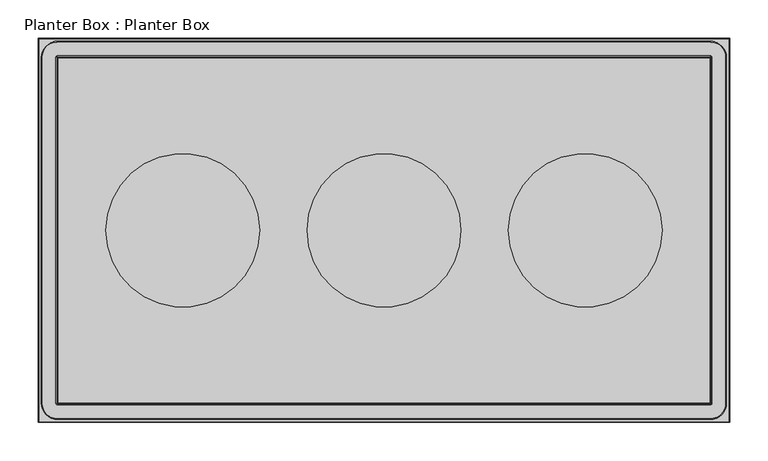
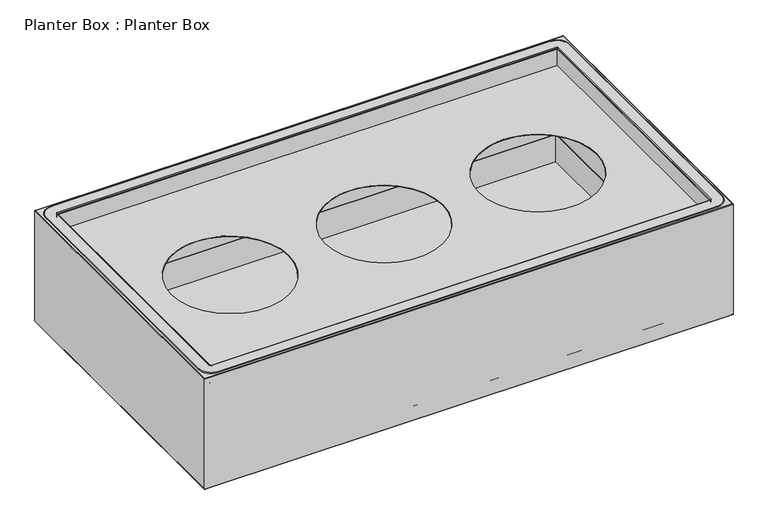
"""IFC4 building model written with IfcOpenShell, lengths in millimetres: furniture geometry, Planter Box : Planter Box."""

from ifc_helpers import new_model, si_unit, point, frame, frame_2d, origin, origin_2d, place, context, project, spatial, polyline, circle_curve, ellipse_curve, trimmed, segment, composite_curve, outline, extrude, source, transform, mapped, element, save
from ifc_brep_helpers import plane_surface, cylinder_surface, revolved_surface, advanced_brep


def planter_box_planter_box_1802a210(model_context):
    return source(origin(), model_context, "Body", "SolidModel", [
        advanced_brep(
        [(-425.2059799, -226.9940201, 200.0), (-425.2059799, -226.9940201, 169.8), (425.0, -226.9940201, 169.8), (425.0, -226.9940201, 200.0), (-425.2059799, -245.290539, 201.2), (-425.2059799, -245.290539, 200.0), (425.0, -245.290539, 200.0), (425.0, -245.290539, 201.2), (-425.2059799, -226.0, 200.2), (-425.2059799, -227.0, 201.2), (425.0, -227.0, 201.2), (425.0, -226.0, 200.2), (-425.2059799, -226.0, 168.8059799), (425.0, -226.0, 168.8059799), (426.9940201, -225.0, 200.0), (426.9940201, -225.0, 169.8), (426.9940201, 225.2, 169.8), (426.9940201, 225.2, 200.0), (445.290539, -225.0, 201.2), (445.290539, -225.0, 200.0), (445.290539, 225.2, 200.0), (445.290539, 225.2, 201.2), (426.0, -225.0, 200.2), (427.0, -225.0, 201.2), (427.0, 225.2, 201.2), (426.0, 225.2, 200.2), (426.0, -225.0, 168.8059799), (426.0, 225.2, 168.8059799), (425.0, 227.1940201, 200.0), (425.0, 227.1940201, 169.8), (-425.2249705, 227.1940201, 169.8), (-425.2249705, 227.1940201, 200.0), (425.0, 245.490539, 201.2), (425.0, 245.490539, 200.0), (-425.2249705, 245.490539, 200.0), (-425.2249705, 245.490539, 201.2), (425.0, 226.2, 200.2), (425.0, 227.2, 201.2), (-425.2249705, 227.2, 201.2), (-425.2249705, 226.2, 200.2), (425.0, 226.2, 168.8059799), (-425.2249705, 226.2, 168.8059799), (-427.2, 225.2189905, 200.0), (-427.2, 225.2189905, 169.8), (-427.2, -225.0, 169.8), (-427.2, -225.0, 200.0), (-445.496519, 225.2189905, 201.2), (-445.496519, 225.2189905, 200.0), (-445.496519, -225.0, 200.0), (-445.496519, -225.0, 201.2), (-426.2059799, 225.2189905, 200.2), (-427.2059799, 225.2189905, 201.2), (-427.2059799, -225.0, 201.2), (-426.2059799, -225.0, 200.2), (-426.2059799, 225.2189905, 168.8059799), (-426.2059799, -225.0, 168.8059799)],
        [
            (0, 1),
            (1, 2),
            (2, 3),
            (3, 0),
            (4, 5, circle_curve(frame((-425.2059799, -245.290539, 200.6), z_axis=(1.0, 0.0, 0.0), x_axis=(0.0, 1.0, 0.0)), 0.6)),
            (5, 6),
            (6, 7, circle_curve(frame((425.0, -245.290539, 200.6), z_axis=(-1.0, 0.0, 0.0), x_axis=(0.0, 1.0, 0.0)), 0.6)),
            (7, 4),
            (8, 9, circle_curve(frame((-425.2059799, -227.0, 200.2), z_axis=(1.0, 0.0, 0.0), x_axis=(0.0, 1.0, 0.0)), 1.0)),
            (9, 10),
            (10, 11, circle_curve(frame((425.0, -227.0, 200.2), z_axis=(-1.0, 0.0, 0.0), x_axis=(0.0, 1.0, 0.0)), 1.0)),
            (11, 8),
            (12, 8),
            (11, 13),
            (13, 12),
            (1, 12, circle_curve(frame((-425.2059799, -226.0, 169.8), z_axis=(1.0, 0.0, 0.0), x_axis=(0.0, 1.0, 0.0)), 0.9940201)),
            (13, 2, circle_curve(frame((425.0, -226.0, 169.8), z_axis=(-1.0, 0.0, 0.0), x_axis=(0.0, 1.0, 0.0)), 0.9940201)),
            (14, 15),
            (15, 16),
            (16, 17),
            (17, 14),
            (18, 19, circle_curve(frame((445.290539, -225.0, 200.6), z_axis=(0.0, 1.0, 0.0), x_axis=(-1.0, 0.0, 0.0)), 0.6)),
            (19, 20),
            (20, 21, circle_curve(frame((445.290539, 225.2, 200.6), z_axis=(0.0, -1.0, 0.0), x_axis=(-1.0, 0.0, 0.0)), 0.6)),
            (21, 18),
            (22, 23, circle_curve(frame((427.0, -225.0, 200.2), z_axis=(0.0, 1.0, 0.0), x_axis=(-1.0, 0.0, 0.0)), 1.0)),
            (23, 24),
            (24, 25, circle_curve(frame((427.0, 225.2, 200.2), z_axis=(0.0, -1.0, 0.0), x_axis=(-1.0, 0.0, 0.0)), 1.0)),
            (25, 22),
            (26, 22),
            (25, 27),
            (27, 26),
            (15, 26, circle_curve(frame((426.0, -225.0, 169.8), z_axis=(0.0, 1.0, 0.0), x_axis=(-1.0, 0.0, 0.0)), 0.9940201)),
            (27, 16, circle_curve(frame((426.0, 225.2, 169.8), z_axis=(0.0, -1.0, 0.0), x_axis=(-1.0, 0.0, 0.0)), 0.9940201)),
            (28, 29),
            (29, 30),
            (30, 31),
            (31, 28),
            (32, 33, circle_curve(frame((425.0, 245.490539, 200.6), z_axis=(-1.0, 0.0, 0.0), x_axis=(0.0, -1.0, 0.0)), 0.6)),
            (33, 34),
            (34, 35, circle_curve(frame((-425.2249705, 245.490539, 200.6), z_axis=(1.0, 0.0, 0.0), x_axis=(0.0, -1.0, 0.0)), 0.6)),
            (35, 32),
            (36, 37, circle_curve(frame((425.0, 227.2, 200.2), z_axis=(-1.0, 0.0, 0.0), x_axis=(0.0, -1.0, 0.0)), 1.0)),
            (37, 38),
            (38, 39, circle_curve(frame((-425.2249705, 227.2, 200.2), z_axis=(1.0, 0.0, 0.0), x_axis=(0.0, -1.0, 0.0)), 1.0)),
            (39, 36),
            (40, 36),
            (39, 41),
            (41, 40),
            (29, 40, circle_curve(frame((425.0, 226.2, 169.8), z_axis=(-1.0, 0.0, 0.0), x_axis=(0.0, -1.0, 0.0)), 0.9940201)),
            (41, 30, circle_curve(frame((-425.2249705, 226.2, 169.8), z_axis=(1.0, 0.0, 0.0), x_axis=(0.0, -1.0, 0.0)), 0.9940201)),
            (42, 43),
            (43, 44),
            (44, 45),
            (45, 42),
            (46, 47, circle_curve(frame((-445.496519, 225.2189905, 200.6), z_axis=(0.0, -1.0, 0.0), x_axis=(1.0, 0.0, 0.0)), 0.6)),
            (47, 48),
            (48, 49, circle_curve(frame((-445.496519, -225.0, 200.6), z_axis=(0.0, 1.0, 0.0), x_axis=(1.0, 0.0, 0.0)), 0.6)),
            (49, 46),
            (50, 51, circle_curve(frame((-427.2059799, 225.2189905, 200.2), z_axis=(0.0, -1.0, 0.0), x_axis=(1.0, 0.0, 0.0)), 1.0)),
            (51, 52),
            (52, 53, circle_curve(frame((-427.2059799, -225.0, 200.2), z_axis=(0.0, 1.0, 0.0), x_axis=(1.0, 0.0, 0.0)), 1.0)),
            (53, 50),
            (54, 50),
            (53, 55),
            (55, 54),
            (43, 54, circle_curve(frame((-426.2059799, 225.2189905, 169.8), z_axis=(0.0, -1.0, 0.0), x_axis=(1.0, 0.0, 0.0)), 0.9940201)),
            (55, 44, circle_curve(frame((-426.2059799, -225.0, 169.8), z_axis=(0.0, 1.0, 0.0), x_axis=(1.0, 0.0, 0.0)), 0.9940201)),
            (0, 45, circle_curve(frame((-425.2059799, -225.0, 200.0), z_axis=(0.0, 0.0, -1.0), x_axis=(-1.0, 0.0, 0.0)), 1.9940201)),
            (44, 1, circle_curve(frame((-425.2059799, -225.0, 169.8), z_axis=(0.0, 0.0, 1.0), x_axis=(-1.0, 0.0, 0.0)), 1.9940201)),
            (4, 49, circle_curve(frame((-425.2059799, -225.0, 201.2), z_axis=(0.0, 0.0, -1.0), x_axis=(-1.0, 0.0, 0.0)), 20.290539)),
            (48, 5, circle_curve(frame((-425.2059799, -225.0, 200.0), z_axis=(0.0, 0.0, 1.0), x_axis=(-1.0, 0.0, 0.0)), 20.290539)),
            (8, 53, circle_curve(frame((-425.2059799, -225.0, 200.2), z_axis=(0.0, 0.0, -1.0), x_axis=(-1.0, 0.0, 0.0)), 1.0)),
            (52, 9, circle_curve(frame((-425.2059799, -225.0, 201.2), z_axis=(0.0, 0.0, 1.0), x_axis=(-1.0, 0.0, 0.0)), 2.0)),
            (12, 55, circle_curve(frame((-425.2059799, -225.0, 168.8059799), z_axis=(0.0, 0.0, -1.0), x_axis=(-1.0, 0.0, 0.0)), 1.0)),
            (14, 3, circle_curve(frame((425.0, -225.0, 200.0), z_axis=(0.0, 0.0, -1.0), x_axis=(0.0, -1.0, 0.0)), 1.9940201)),
            (2, 15, circle_curve(frame((425.0, -225.0, 169.8), z_axis=(0.0, 0.0, 1.0), x_axis=(0.0, -1.0, 0.0)), 1.9940201)),
            (18, 7, circle_curve(frame((425.0, -225.0, 201.2), z_axis=(0.0, 0.0, -1.0), x_axis=(0.0, -1.0, 0.0)), 20.290539)),
            (6, 19, circle_curve(frame((425.0, -225.0, 200.0), z_axis=(0.0, 0.0, 1.0), x_axis=(0.0, -1.0, 0.0)), 20.290539)),
            (22, 11, circle_curve(frame((425.0, -225.0, 200.2), z_axis=(0.0, 0.0, -1.0), x_axis=(0.0, -1.0, 0.0)), 1.0)),
            (10, 23, circle_curve(frame((425.0, -225.0, 201.2), z_axis=(0.0, 0.0, 1.0), x_axis=(0.0, -1.0, 0.0)), 2.0)),
            (26, 13, circle_curve(frame((425.0, -225.0, 168.8059799), z_axis=(0.0, 0.0, -1.0), x_axis=(0.0, -1.0, 0.0)), 1.0)),
            (28, 17, circle_curve(frame((425.0, 225.2, 200.0), z_axis=(0.0, 0.0, -1.0), x_axis=(1.0, 0.0, 0.0)), 1.9940201)),
            (16, 29, circle_curve(frame((425.0, 225.2, 169.8), z_axis=(0.0, 0.0, 1.0), x_axis=(1.0, 0.0, 0.0)), 1.9940201)),
            (32, 21, circle_curve(frame((425.0, 225.2, 201.2), z_axis=(0.0, 0.0, -1.0), x_axis=(1.0, 0.0, 0.0)), 20.290539)),
            (20, 33, circle_curve(frame((425.0, 225.2, 200.0), z_axis=(0.0, 0.0, 1.0), x_axis=(1.0, 0.0, 0.0)), 20.290539)),
            (36, 25, circle_curve(frame((425.0, 225.2, 200.2), z_axis=(0.0, 0.0, -1.0), x_axis=(1.0, 0.0, 0.0)), 1.0)),
            (24, 37, circle_curve(frame((425.0, 225.2, 201.2), z_axis=(0.0, 0.0, 1.0), x_axis=(1.0, 0.0, 0.0)), 2.0)),
            (40, 27, circle_curve(frame((425.0, 225.2, 168.8059799), z_axis=(0.0, 0.0, -1.0), x_axis=(1.0, 0.0, 0.0)), 1.0)),
            (42, 31, circle_curve(frame((-425.2249705, 225.2189905, 200.0), z_axis=(0.0, 0.0, -1.0), x_axis=(0.0, 1.0, 0.0)), 1.9750295)),
            (30, 43, circle_curve(frame((-425.2249705, 225.2189905, 169.8), z_axis=(0.0, 0.0, 1.0), x_axis=(0.0, 1.0, 0.0)), 1.9750295)),
            (47, 34, circle_curve(frame((-425.2249705, 225.2189905, 200.0), z_axis=(0.0, 0.0, -1.0), x_axis=(0.0, 1.0, 0.0)), 20.2715485)),
            (46, 35, circle_curve(frame((-425.2249705, 225.2189905, 201.2), z_axis=(0.0, 0.0, -1.0), x_axis=(0.0, 1.0, 0.0)), 20.2715485)),
            (51, 38, circle_curve(frame((-425.2249705, 225.2189905, 201.2), z_axis=(0.0, 0.0, -1.0), x_axis=(0.0, 1.0, 0.0)), 1.9810095)),
            (50, 39, circle_curve(frame((-425.2249705, 225.2189905, 200.2), z_axis=(0.0, 0.0, -1.0), x_axis=(0.0, 1.0, 0.0)), 0.9810095)),
            (54, 41, circle_curve(frame((-425.2249705, 225.2189905, 168.8059799), z_axis=(0.0, 0.0, -1.0), x_axis=(0.0, 1.0, 0.0)), 0.9810095)),
        ],
        [
            plane_surface(frame((-425.2059799, -226.9940201, 169.8), z_axis=(0.0, -1.0, 0.0), x_axis=(1.0, 0.0, 0.0))),
            cylinder_surface(frame((-425.2059799, -245.290539, 200.6), z_axis=(-1.0, 0.0, 0.0), x_axis=(0.0, 1.0, 0.0)), 0.6),
            cylinder_surface(frame((-425.2059799, -227.0, 200.2), z_axis=(-1.0, 0.0, 0.0), x_axis=(0.0, 1.0, 0.0)), 1.0),
            plane_surface(frame((-425.2059799, -226.0, 200.2), z_axis=(0.0, 1.0, 0.0), x_axis=(1.0, 0.0, 0.0))),
            cylinder_surface(frame((-425.2059799, -226.0, 169.8), z_axis=(-1.0, 0.0, 0.0), x_axis=(0.0, 1.0, 0.0)), 0.9940201),
            plane_surface(frame((426.9940201, -225.0, 169.8), z_axis=(1.0, 0.0, 0.0), x_axis=(0.0, 1.0, 0.0))),
            cylinder_surface(frame((445.290539, -225.0, 200.6), z_axis=(0.0, -1.0, 0.0), x_axis=(-1.0, 0.0, 0.0)), 0.6),
            cylinder_surface(frame((427.0, -225.0, 200.2), z_axis=(0.0, -1.0, 0.0), x_axis=(-1.0, 0.0, 0.0)), 1.0),
            plane_surface(frame((426.0, -225.0, 200.2), z_axis=(-1.0, 0.0, 0.0), x_axis=(0.0, 1.0, 0.0))),
            cylinder_surface(frame((426.0, -225.0, 169.8), z_axis=(0.0, -1.0, 0.0), x_axis=(-1.0, 0.0, 0.0)), 0.9940201),
            plane_surface(frame((425.0, 227.1940201, 169.8), z_axis=(0.0, 1.0, 0.0), x_axis=(-1.0, 0.0, 0.0))),
            cylinder_surface(frame((425.0, 245.490539, 200.6), z_axis=(1.0, 0.0, 0.0), x_axis=(0.0, -1.0, 0.0)), 0.6),
            cylinder_surface(frame((425.0, 227.2, 200.2), z_axis=(1.0, 0.0, 0.0), x_axis=(0.0, -1.0, 0.0)), 1.0),
            plane_surface(frame((425.0, 226.2, 200.2), z_axis=(0.0, -1.0, 0.0), x_axis=(-1.0, 0.0, 0.0))),
            cylinder_surface(frame((425.0, 226.2, 169.8), z_axis=(1.0, 0.0, 0.0), x_axis=(0.0, -1.0, 0.0)), 0.9940201),
            plane_surface(frame((-427.2, 225.2189905, 169.8), z_axis=(-1.0, 0.0, 0.0), x_axis=(0.0, -1.0, 0.0))),
            cylinder_surface(frame((-445.496519, 225.2189905, 200.6), z_axis=(0.0, 1.0, 0.0), x_axis=(1.0, 0.0, 0.0)), 0.6),
            cylinder_surface(frame((-427.2059799, 225.2189905, 200.2), z_axis=(0.0, 1.0, 0.0), x_axis=(1.0, 0.0, 0.0)), 1.0),
            plane_surface(frame((-426.2059799, 225.2189905, 200.2), z_axis=(1.0, 0.0, 0.0), x_axis=(0.0, -1.0, 0.0))),
            cylinder_surface(frame((-426.2059799, 225.2189905, 169.8), z_axis=(0.0, 1.0, 0.0), x_axis=(1.0, 0.0, 0.0)), 0.9940201),
            cylinder_surface(frame((-425.2059799, -225.0, 169.8), z_axis=(0.0, 0.0, 1.0), x_axis=(-1.0, 0.0, 0.0)), 1.9940201),
            revolved_surface(trimmed(ellipse_curve(frame((-445.496519, -225.0, 200.6), z_axis=(0.0, 1.0, 0.0), x_axis=(1.0, 0.0, 0.0)), 0.6, 0.6), [point((-445.496519, -225.0, 200.0))], [point((-445.496519, -225.0, 201.2))], True, "CARTESIAN"), (-425.2059799, -225.0, 169.8), (0.0, 0.0, 1.0)),
            revolved_surface(trimmed(ellipse_curve(frame((-427.2059799, -225.0, 200.2), z_axis=(0.0, 1.0, 0.0), x_axis=(1.0, 0.0, 0.0)), 1.0, 1.0), [point((-427.2059799, -225.0, 201.2))], [point((-426.2059799, -225.0, 200.2))], True, "CARTESIAN"), (-425.2059799, -225.0, 169.8), (0.0, 0.0, 1.0)),
            revolved_surface(polyline([(-426.2059799, -225.0, 200.2), (-426.2059799, -225.0, 168.8059799)]), (-425.2059799, -225.0, 169.8), (0.0, 0.0, 1.0)),
            revolved_surface(trimmed(ellipse_curve(frame((-426.2059799, -225.0, 169.8), z_axis=(0.0, 1.0, 0.0), x_axis=(1.0, 0.0, 0.0)), 0.9940201, 0.9940201), [point((-426.2059799, -225.0, 168.8059799))], [point((-427.2, -225.0, 169.8))], True, "CARTESIAN"), (-425.2059799, -225.0, 169.8), (0.0, 0.0, 1.0)),
            cylinder_surface(frame((425.0, -225.0, 169.8), z_axis=(0.0, 0.0, 1.0), x_axis=(0.0, -1.0, 0.0)), 1.9940201),
            revolved_surface(trimmed(ellipse_curve(frame((425.0, -245.290539, 200.6), z_axis=(-1.0, 0.0, 0.0), x_axis=(0.0, 1.0, 0.0)), 0.6, 0.6), [point((425.0, -245.290539, 200.0))], [point((425.0, -245.290539, 201.2))], True, "CARTESIAN"), (425.0, -225.0, 169.8), (0.0, 0.0, 1.0)),
            revolved_surface(trimmed(ellipse_curve(frame((425.0, -227.0, 200.2), z_axis=(-1.0, 0.0, 0.0), x_axis=(0.0, 1.0, 0.0)), 1.0, 1.0), [point((425.0, -227.0, 201.2))], [point((425.0, -226.0, 200.2))], True, "CARTESIAN"), (425.0, -225.0, 169.8), (0.0, 0.0, 1.0)),
            revolved_surface(polyline([(425.0, -226.0, 200.2), (425.0, -226.0, 168.8059799)]), (425.0, -225.0, 169.8), (0.0, 0.0, 1.0)),
            revolved_surface(trimmed(ellipse_curve(frame((425.0, -226.0, 169.8), z_axis=(-1.0, 0.0, 0.0), x_axis=(0.0, 1.0, 0.0)), 0.9940201, 0.9940201), [point((425.0, -226.0, 168.8059799))], [point((425.0, -226.9940201, 169.8))], True, "CARTESIAN"), (425.0, -225.0, 169.8), (0.0, 0.0, 1.0)),
            cylinder_surface(frame((425.0, 225.2, 169.8), z_axis=(0.0, 0.0, 1.0), x_axis=(1.0, 0.0, 0.0)), 1.9940201),
            revolved_surface(trimmed(ellipse_curve(frame((445.290539, 225.2, 200.6), z_axis=(0.0, -1.0, 0.0), x_axis=(-1.0, 0.0, 0.0)), 0.6, 0.6), [point((445.290539, 225.2, 200.0))], [point((445.290539, 225.2, 201.2))], True, "CARTESIAN"), (425.0, 225.2, 169.8), (0.0, 0.0, 1.0)),
            revolved_surface(trimmed(ellipse_curve(frame((427.0, 225.2, 200.2), z_axis=(0.0, -1.0, 0.0), x_axis=(-1.0, 0.0, 0.0)), 1.0, 1.0), [point((427.0, 225.2, 201.2))], [point((426.0, 225.2, 200.2))], True, "CARTESIAN"), (425.0, 225.2, 169.8), (0.0, 0.0, 1.0)),
            revolved_surface(polyline([(426.0, 225.2, 200.2), (426.0, 225.2, 168.8059799)]), (425.0, 225.2, 169.8), (0.0, 0.0, 1.0)),
            revolved_surface(trimmed(ellipse_curve(frame((426.0, 225.2, 169.8), z_axis=(0.0, -1.0, 0.0), x_axis=(-1.0, 0.0, 0.0)), 0.9940201, 0.9940201), [point((426.0, 225.2, 168.8059799))], [point((426.9940201, 225.2, 169.8))], True, "CARTESIAN"), (425.0, 225.2, 169.8), (0.0, 0.0, 1.0)),
            cylinder_surface(frame((-425.2249705, 225.2189905, 169.8), z_axis=(0.0, 0.0, 1.0), x_axis=(0.0, 1.0, 0.0)), 1.9750295),
            plane_surface(frame((-425.2249705, 225.2189905, 200.0), z_axis=(0.0, 0.0, -1.0), x_axis=(0.0, 1.0, 0.0))),
            revolved_surface(trimmed(ellipse_curve(frame((-425.2249705, 245.490539, 200.6), z_axis=(1.0, 0.0, 0.0), x_axis=(0.0, -1.0, 0.0)), 0.6, 0.6), [point((-425.2249705, 245.490539, 200.0))], [point((-425.2249705, 245.490539, 201.2))], True, "CARTESIAN"), (-425.2249705, 225.2189905, 169.8), (0.0, 0.0, 1.0)),
            plane_surface(frame((-425.2249705, 225.2189905, 201.2), z_axis=(0.0, 0.0, 1.0), x_axis=(0.0, 1.0, 0.0))),
            revolved_surface(trimmed(ellipse_curve(frame((-425.2249705, 227.2, 200.2), z_axis=(1.0, 0.0, 0.0), x_axis=(0.0, -1.0, 0.0)), 1.0, 1.0), [point((-425.2249705, 227.2, 201.2))], [point((-425.2249705, 226.2, 200.2))], True, "CARTESIAN"), (-425.2249705, 225.2189905, 169.8), (0.0, 0.0, 1.0)),
            revolved_surface(polyline([(-425.2249705, 226.2, 200.2), (-425.2249705, 226.2, 168.8059799)]), (-425.2249705, 225.2189905, 169.8), (0.0, 0.0, 1.0)),
            revolved_surface(trimmed(ellipse_curve(frame((-425.2249705, 226.2, 169.8), z_axis=(1.0, 0.0, 0.0), x_axis=(0.0, -1.0, 0.0)), 0.9940201, 0.9940201), [point((-425.2249705, 226.2, 168.8059799))], [point((-425.2249705, 227.1940201, 169.8))], True, "CARTESIAN"), (-425.2249705, 225.2189905, 169.8), (0.0, 0.0, 1.0)),
        ],
        [
            (0, [[1, 2, 3, 4]]),
            (1, [[5, 6, 7, 8]]),
            (2, [[9, 10, 11, 12]]),
            (3, [[13, -12, 14, 15]]),
            (4, [[16, -15, 17, -2]]),
            (5, [[18, 19, 20, 21]]),
            (6, [[22, 23, 24, 25]]),
            (7, [[26, 27, 28, 29]]),
            (8, [[30, -29, 31, 32]]),
            (9, [[33, -32, 34, -19]]),
            (10, [[35, 36, 37, 38]]),
            (11, [[39, 40, 41, 42]]),
            (12, [[43, 44, 45, 46]]),
            (13, [[47, -46, 48, 49]]),
            (14, [[50, -49, 51, -36]]),
            (15, [[52, 53, 54, 55]]),
            (16, [[56, 57, 58, 59]]),
            (17, [[60, 61, 62, 63]]),
            (18, [[64, -63, 65, 66]]),
            (19, [[67, -66, 68, -53]]),
            (20, [[69, -54, 70, -1]]),
            (21, [[71, -58, 72, -5]]),
            (22, [[73, -62, 74, -9]]),
            (23, [[75, -65, -73, -13]]),
            (24, [[-70, -68, -75, -16]]),
            (25, [[76, -3, 77, -18]]),
            (26, [[78, -7, 79, -22]]),
            (27, [[80, -11, 81, -26]]),
            (28, [[82, -14, -80, -30]]),
            (29, [[-77, -17, -82, -33]]),
            (30, [[83, -20, 84, -35]]),
            (31, [[85, -24, 86, -39]]),
            (32, [[87, -28, 88, -43]]),
            (33, [[89, -31, -87, -47]]),
            (34, [[-84, -34, -89, -50]]),
            (35, [[90, -37, 91, -52]]),
            (36, [[92, -40, -86, -23, -79, -6, -72, -57], [-21, -83, -38, -90, -55, -69, -4, -76]]),
            (37, [[93, -41, -92, -56]]),
            (38, [[-25, -85, -42, -93, -59, -71, -8, -78], [94, -44, -88, -27, -81, -10, -74, -61]]),
            (39, [[95, -45, -94, -60]]),
            (40, [[96, -48, -95, -64]]),
            (41, [[-91, -51, -96, -67]]),
        ],
    ),
        extrude(outline(composite_curve([segment(trimmed(circle_curve(frame_2d((425.0, 225.2)), 1.0), [point((425.0, 226.2))], [point((426.0, 225.2))], False, "CARTESIAN"), True, "CONTINUOUS"), segment(polyline([(426.0, 225.2), (426.0, -225.0)]), True, "CONTINUOUS"), segment(trimmed(circle_curve(frame_2d((425.0, -225.0)), 1.0), [point((426.0, -225.0))], [point((425.0, -226.0))], False, "CARTESIAN"), True, "CONTINUOUS"), segment(polyline([(425.0, -226.0), (-425.2059799, -226.0)]), True, "CONTINUOUS"), segment(trimmed(circle_curve(frame_2d((-425.2059799, -225.0)), 1.0), [point((-425.2059799, -226.0))], [point((-426.2059799, -225.0))], False, "CARTESIAN"), True, "CONTINUOUS"), segment(polyline([(-426.2059799, -225.0), (-426.2059799, 225.2189905)]), True, "CONTINUOUS"), segment(trimmed(circle_curve(frame_2d((-425.2249705, 225.2189905)), 0.9810095), [point((-426.2059799, 225.2189905))], [point((-425.2249705, 226.2))], False, "CARTESIAN"), True, "CONTINUOUS"), segment(polyline([(-425.2249705, 226.2), (425.0, 226.2)]), True, "CONTINUOUS")], self_intersect=False), holes=[composite_curve([segment(trimmed(circle_curve(origin_2d(), 100.0), [point((-100.0, 0.0))], [point((100.0, 0.0))], True, "CARTESIAN"), True, "CONTINUOUS"), segment(trimmed(circle_curve(origin_2d(), 100.0), [point((100.0, 0.0))], [point((-100.0, 0.0))], True, "CARTESIAN"), True, "CONTINUOUS")], self_intersect=False), composite_curve([segment(trimmed(circle_curve(frame_2d((262.0, 0.0)), 100.0), [point((162.0, 0.0))], [point((362.0, 0.0))], True, "CARTESIAN"), True, "CONTINUOUS"), segment(trimmed(circle_curve(frame_2d((262.0, 0.0)), 100.0), [point((362.0, 0.0))], [point((162.0, 0.0))], True, "CARTESIAN"), True, "CONTINUOUS")], self_intersect=False), composite_curve([segment(trimmed(circle_curve(frame_2d((-262.0, 0.0)), 100.0), [point((-362.0, 0.0))], [point((-162.0, 0.0))], True, "CARTESIAN"), True, "CONTINUOUS"), segment(trimmed(circle_curve(frame_2d((-262.0, 0.0)), 100.0), [point((-162.0, 0.0))], [point((-362.0, 0.0))], True, "CARTESIAN"), True, "CONTINUOUS")], self_intersect=False)]), frame((0.0, 0.0, 168.8), z_axis=(0.0, 0.0, 1.0), x_axis=(1.0, 0.0, 0.0)), (0.0, 0.0, 1.0), 1.0),
        advanced_brep(
        [(420.0, 220.0, 51.2), (-420.0, 220.0, 51.2), (-420.0, -220.0, 51.2), (420.0, -220.0, 51.2), (419.0, 219.0, 51.2), (419.0, -219.0, 51.2), (-419.0, -219.0, 51.2), (-419.0, 219.0, 51.2), (420.0, 220.0, 2.2), (-420.0, 220.0, 2.2), (-420.0, -220.0, 2.2), (420.0, -220.0, 2.2), (419.0, 219.0, 2.4), (419.0, -219.0, 2.4), (-419.0, -219.0, 2.4), (-419.0, 219.0, 2.4), (-419.0, -219.0, 1.2), (419.0, -219.0, 1.2), (-419.0, 219.0, 1.2), (419.0, 219.0, 1.2), (-449.0, -249.0, 200.0), (449.0, -249.0, 200.0), (449.0, 249.0, 200.0), (-449.0, 249.0, 200.0), (426.0, -226.0, 200.0), (-426.0, -226.0, 200.0), (-426.0, 226.0, 200.0), (426.0, 226.0, 200.0), (449.0, 249.0, 0.0), (449.0, -249.0, 0.0), (-449.0, -249.0, 0.0), (-449.0, 249.0, 0.0), (-450.0, 250.0, 199.0), (450.0, 250.0, 199.0), (450.0, 250.0, 1.0), (-450.0, 250.0, 1.0), (-450.0, -250.0, 199.0), (-450.0, -250.0, 1.0), (450.0, -250.0, 199.0), (450.0, -250.0, 1.0), (425.0, -225.0, 199.0), (425.0, 225.0, 199.0), (425.0, 225.0, 1.2), (425.0, -225.0, 1.2), (-425.0, -225.0, 199.0), (-425.0, -225.0, 1.2), (-425.0, 225.0, 199.0), (-425.0, 225.0, 1.2)],
        [
            (0, 1),
            (1, 2),
            (2, 3),
            (3, 0),
            (4, 5),
            (5, 6),
            (6, 7),
            (7, 4),
            (0, 8),
            (8, 9),
            (9, 1),
            (9, 10),
            (10, 2),
            (10, 11),
            (11, 3),
            (11, 8),
            (4, 12),
            (12, 13),
            (13, 5),
            (13, 14),
            (14, 6),
            (14, 15),
            (15, 7),
            (15, 12),
            (10, 16, ellipse_curve(frame((-419.0, -219.0, 2.2), z_axis=(0.7071067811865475, -0.7071067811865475, 0.0), x_axis=(-0.7071067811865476, -0.7071067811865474, 0.0)), 1.4142136, 1.0)),
            (16, 17),
            (17, 11, ellipse_curve(frame((419.0, -219.0, 2.2), z_axis=(-0.7071067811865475, -0.7071067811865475, 0.0), x_axis=(-0.7071067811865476, 0.7071067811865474, 0.0)), 1.4142136, 1.0)),
            (9, 18, ellipse_curve(frame((-419.0, 219.0, 2.2), z_axis=(-0.7071067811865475, -0.7071067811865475, 0.0), x_axis=(-0.7071067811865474, 0.7071067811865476, 0.0)), 1.4142136, 1.0)),
            (18, 16),
            (8, 19, ellipse_curve(frame((419.0, 219.0, 2.2), z_axis=(-0.7071067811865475, 0.7071067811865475, 0.0), x_axis=(0.7071067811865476, 0.7071067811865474, 0.0)), 1.4142136, 1.0)),
            (19, 18),
            (17, 19),
            (20, 21),
            (21, 22),
            (22, 23),
            (23, 20),
            (24, 25),
            (25, 26),
            (26, 27),
            (27, 24),
            (28, 29),
            (29, 30),
            (30, 31),
            (31, 28),
            (32, 33),
            (33, 34),
            (34, 35),
            (35, 32),
            (36, 32),
            (35, 37),
            (37, 36),
            (38, 36),
            (37, 39),
            (39, 38),
            (33, 38),
            (39, 34),
            (40, 41),
            (41, 42),
            (42, 43),
            (43, 40),
            (44, 40),
            (43, 45),
            (45, 44),
            (46, 44),
            (45, 47),
            (47, 46),
            (41, 46),
            (47, 42),
            (44, 25, ellipse_curve(frame((-426.0, -226.0, 199.0), z_axis=(0.7071067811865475, -0.7071067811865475, 0.0), x_axis=(-0.7071067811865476, -0.7071067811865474, 0.0)), 1.4142136, 1.0)),
            (24, 40, ellipse_curve(frame((426.0, -226.0, 199.0), z_axis=(-0.7071067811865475, -0.7071067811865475, 0.0), x_axis=(-0.7071067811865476, 0.7071067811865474, 0.0)), 1.4142136, 1.0)),
            (46, 26, ellipse_curve(frame((-426.0, 226.0, 199.0), z_axis=(-0.7071067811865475, -0.7071067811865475, 0.0), x_axis=(-0.7071067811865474, 0.7071067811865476, 0.0)), 1.4142136, 1.0)),
            (41, 27, ellipse_curve(frame((426.0, 226.0, 199.0), z_axis=(-0.7071067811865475, 0.7071067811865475, 0.0), x_axis=(0.7071067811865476, 0.7071067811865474, 0.0)), 1.4142136, 1.0)),
            (38, 21, ellipse_curve(frame((449.0, -249.0, 199.0), z_axis=(-0.7071067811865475, -0.7071067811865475, 0.0), x_axis=(0.7071067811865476, -0.7071067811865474, 0.0)), 1.4142136, 1.0)),
            (20, 36, ellipse_curve(frame((-449.0, -249.0, 199.0), z_axis=(0.7071067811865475, -0.7071067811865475, 0.0), x_axis=(0.7071067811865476, 0.7071067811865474, 0.0)), 1.4142136, 1.0)),
            (33, 22, ellipse_curve(frame((449.0, 249.0, 199.0), z_axis=(0.7071067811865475, -0.7071067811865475, 0.0), x_axis=(0.7071067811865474, 0.7071067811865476, 0.0)), 1.4142136, 1.0)),
            (32, 23, ellipse_curve(frame((-449.0, 249.0, 199.0), z_axis=(0.7071067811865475, 0.7071067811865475, 0.0), x_axis=(-0.7071067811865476, 0.7071067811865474, 0.0)), 1.4142136, 1.0)),
            (39, 29, ellipse_curve(frame((449.0, -249.0, 1.0), z_axis=(0.7071067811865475, 0.7071067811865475, 0.0), x_axis=(0.7071067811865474, -0.7071067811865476, 0.0)), 1.4142136, 1.0)),
            (28, 34, ellipse_curve(frame((449.0, 249.0, 1.0), z_axis=(0.7071067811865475, -0.7071067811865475, 0.0), x_axis=(-0.7071067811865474, -0.7071067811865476, 0.0)), 1.4142136, 1.0)),
            (37, 30, ellipse_curve(frame((-449.0, -249.0, 1.0), z_axis=(0.7071067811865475, -0.7071067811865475, 0.0), x_axis=(-0.7071067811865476, -0.7071067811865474, 0.0)), 1.4142136, 1.0)),
            (35, 31, ellipse_curve(frame((-449.0, 249.0, 1.0), z_axis=(-0.7071067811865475, -0.7071067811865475, 0.0), x_axis=(-0.7071067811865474, 0.7071067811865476, 0.0)), 1.4142136, 1.0)),
        ],
        [
            plane_surface(frame((-420.0, 220.0, 51.2), z_axis=(0.0, 0.0, 1.0), x_axis=(-1.0, 0.0, 0.0))),
            plane_surface(frame((420.0, 220.0, 51.2), z_axis=(0.0, 1.0, 0.0), x_axis=(0.0, 0.0, -1.0))),
            plane_surface(frame((-420.0, 220.0, 51.2), z_axis=(-1.0, 0.0, 0.0), x_axis=(0.0, 0.0, -1.0))),
            plane_surface(frame((-420.0, -220.0, 51.2), z_axis=(0.0, -1.0, 0.0), x_axis=(0.0, 0.0, -1.0))),
            plane_surface(frame((420.0, -220.0, 51.2), z_axis=(1.0, 0.0, 0.0), x_axis=(0.0, 0.0, -1.0))),
            plane_surface(frame((419.0, 219.0, 51.2), z_axis=(-1.0, 0.0, 0.0), x_axis=(0.0, 0.0, -1.0))),
            plane_surface(frame((419.0, -219.0, 51.2), z_axis=(0.0, 1.0, 0.0), x_axis=(0.0, 0.0, -1.0))),
            plane_surface(frame((-419.0, -219.0, 51.2), z_axis=(1.0, 0.0, 0.0), x_axis=(0.0, 0.0, -1.0))),
            plane_surface(frame((-419.0, 219.0, 51.2), z_axis=(0.0, -1.0, 0.0), x_axis=(0.0, 0.0, -1.0))),
            cylinder_surface(frame((420.0, -219.0, 2.2), z_axis=(-1.0, 0.0, 0.0), x_axis=(0.0, 1.0, 0.0)), 1.0),
            cylinder_surface(frame((-419.0, -220.0, 2.2), z_axis=(0.0, 1.0, 0.0), x_axis=(1.0, 0.0, 0.0)), 1.0),
            cylinder_surface(frame((-420.0, 219.0, 2.2), z_axis=(1.0, 0.0, 0.0), x_axis=(0.0, -1.0, 0.0)), 1.0),
            cylinder_surface(frame((419.0, 220.0, 2.2), z_axis=(0.0, -1.0, 0.0), x_axis=(-1.0, 0.0, 0.0)), 1.0),
            plane_surface(frame((-450.0, 250.0, 200.0), z_axis=(0.0, 0.0, 1.0), x_axis=(-1.0, 0.0, 0.0))),
            plane_surface(frame((-450.0, 250.0, 0.0), z_axis=(0.0, 0.0, -1.0), x_axis=(1.0, 0.0, 0.0))),
            plane_surface(frame((450.0, 250.0, 200.0), z_axis=(0.0, 1.0, 0.0), x_axis=(0.0, 0.0, -1.0))),
            plane_surface(frame((-450.0, 250.0, 200.0), z_axis=(-1.0, 0.0, 0.0), x_axis=(0.0, 0.0, -1.0))),
            plane_surface(frame((-450.0, -250.0, 200.0), z_axis=(0.0, -1.0, 0.0), x_axis=(0.0, 0.0, -1.0))),
            plane_surface(frame((450.0, -250.0, 200.0), z_axis=(1.0, 0.0, 0.0), x_axis=(0.0, 0.0, -1.0))),
            plane_surface(frame((425.0, 225.0, 200.0), z_axis=(-1.0, 0.0, 0.0), x_axis=(0.0, 0.0, -1.0))),
            plane_surface(frame((425.0, -225.0, 200.0), z_axis=(0.0, 1.0, 0.0), x_axis=(0.0, 0.0, -1.0))),
            plane_surface(frame((-425.0, -225.0, 200.0), z_axis=(1.0, 0.0, 0.0), x_axis=(0.0, 0.0, -1.0))),
            plane_surface(frame((-425.0, 225.0, 200.0), z_axis=(0.0, -1.0, 0.0), x_axis=(0.0, 0.0, -1.0))),
            cylinder_surface(frame((425.0, -226.0, 199.0), z_axis=(-1.0, 0.0, 0.0), x_axis=(0.0, -1.0, 0.0)), 1.0),
            cylinder_surface(frame((-426.0, -225.0, 199.0), z_axis=(0.0, 1.0, 0.0), x_axis=(-1.0, 0.0, 0.0)), 1.0),
            cylinder_surface(frame((-425.0, 226.0, 199.0), z_axis=(1.0, 0.0, 0.0), x_axis=(0.0, 1.0, 0.0)), 1.0),
            cylinder_surface(frame((426.0, 225.0, 199.0), z_axis=(0.0, -1.0, 0.0), x_axis=(1.0, 0.0, 0.0)), 1.0),
            plane_surface(frame((-425.0, 225.0, 1.2), z_axis=(0.0, 0.0, 1.0), x_axis=(-1.0, 0.0, 0.0))),
            plane_surface(frame((-419.0, 219.0, 2.4), z_axis=(0.0, 0.0, 1.0), x_axis=(-1.0, 0.0, 0.0))),
            cylinder_surface(frame((-450.0, -249.0, 199.0), z_axis=(1.0, 0.0, 0.0), x_axis=(0.0, 1.0, 0.0)), 1.0),
            cylinder_surface(frame((449.0, -250.0, 199.0), z_axis=(0.0, 1.0, 0.0), x_axis=(-1.0, 0.0, 0.0)), 1.0),
            cylinder_surface(frame((450.0, 249.0, 199.0), z_axis=(-1.0, 0.0, 0.0), x_axis=(0.0, -1.0, 0.0)), 1.0),
            cylinder_surface(frame((-449.0, 250.0, 199.0), z_axis=(0.0, -1.0, 0.0), x_axis=(1.0, 0.0, 0.0)), 1.0),
            cylinder_surface(frame((449.0, 250.0, 1.0), z_axis=(0.0, -1.0, 0.0), x_axis=(-1.0, 0.0, 0.0)), 1.0),
            cylinder_surface(frame((450.0, -249.0, 1.0), z_axis=(-1.0, 0.0, 0.0), x_axis=(0.0, 1.0, 0.0)), 1.0),
            cylinder_surface(frame((-449.0, -250.0, 1.0), z_axis=(0.0, 1.0, 0.0), x_axis=(1.0, 0.0, 0.0)), 1.0),
            cylinder_surface(frame((-450.0, 249.0, 1.0), z_axis=(1.0, 0.0, 0.0), x_axis=(0.0, -1.0, 0.0)), 1.0),
        ],
        [
            (0, [[1, 2, 3, 4], [5, 6, 7, 8]]),
            (1, [[-1, 9, 10, 11]]),
            (2, [[-2, -11, 12, 13]]),
            (3, [[-3, -13, 14, 15]]),
            (4, [[-4, -15, 16, -9]]),
            (5, [[-5, 17, 18, 19]]),
            (6, [[-6, -19, 20, 21]]),
            (7, [[-7, -21, 22, 23]]),
            (8, [[-8, -23, 24, -17]]),
            (9, [[25, 26, 27, -14]]),
            (10, [[-25, -12, 28, 29]]),
            (11, [[-28, -10, 30, 31]]),
            (12, [[-27, 32, -30, -16]]),
            (13, [[33, 34, 35, 36], [37, 38, 39, 40]]),
            (14, [[41, 42, 43, 44]]),
            (15, [[45, 46, 47, 48]]),
            (16, [[49, -48, 50, 51]]),
            (17, [[52, -51, 53, 54]]),
            (18, [[55, -54, 56, -46]]),
            (19, [[57, 58, 59, 60]]),
            (20, [[61, -60, 62, 63]]),
            (21, [[64, -63, 65, 66]]),
            (22, [[67, -66, 68, -58]]),
            (23, [[69, -37, 70, -61]]),
            (24, [[-69, -64, 71, -38]]),
            (25, [[-71, -67, 72, -39]]),
            (26, [[-70, -40, -72, -57]]),
            (27, [[-59, -68, -65, -62], [-26, -29, -31, -32]]),
            (28, [[-18, -24, -22, -20]]),
            (29, [[73, -33, 74, -52]]),
            (30, [[-73, -55, 75, -34]]),
            (31, [[-75, -45, 76, -35]]),
            (32, [[-74, -36, -76, -49]]),
            (33, [[77, -41, 78, -56]]),
            (34, [[-77, -53, 79, -42]]),
            (35, [[-79, -50, 80, -43]]),
            (36, [[-78, -44, -80, -47]]),
        ],
    ),
    ])


if __name__ == "__main__":
    model = new_model("IFC4")
    model_context = context("Model", 3, world=origin())
    ifc_project = project(units=[si_unit("LENGTHUNIT", "METRE", prefix="MILLI")], contexts=[model_context])
    site = spatial("IfcSite", under=ifc_project)
    building = spatial("IfcBuilding", under=site)
    placement = place(None, origin())
    planter_box_planter_box_shape = planter_box_planter_box_1802a210(model_context)
    element("IfcFurniture", 1, ObjectType="Planter Box : Planter Box", at=placement, inside=building, context=model_context, shape_type="MappedRepresentation", body=[
        mapped(planter_box_planter_box_shape, transform((0.0, 0.0, 0.0), x_axis=(1.0, 0.0, 0.0), y_axis=(0.0, 1.0, 0.0), z_axis=(0.0, 0.0, 1.0))),
    ])
    save(model, "model.ifc")
